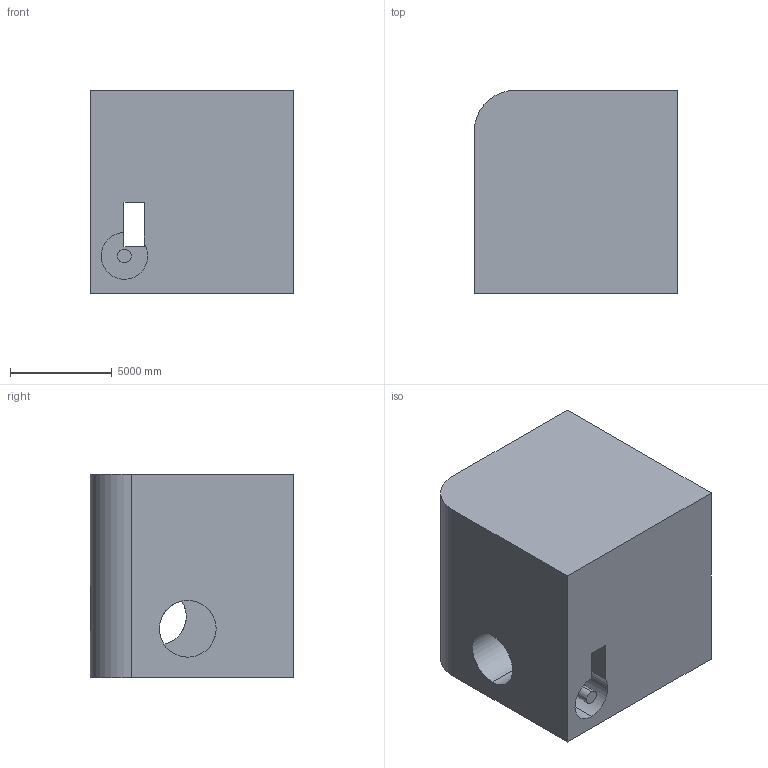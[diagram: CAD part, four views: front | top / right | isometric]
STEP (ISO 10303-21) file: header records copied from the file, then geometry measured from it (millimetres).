
FILE_DESCRIPTION (( 'STEP AP203' ), '1' );
FILE_NAME ('675.STEP', '2022-07-29T12:27:17', ( 'user' ), ( '' ), 'SwSTEP 2.0', 'SolidWorks 2021', '' );
FILE_SCHEMA (( 'CONFIG_CONTROL_DESIGN' ));
Length unit declared in the file: centimetre
Products named in the file (1): 675
Bounding box: 10000 x 10000 x 10000 mm (x, y, z)
Volume: 851206117755.8 mm3; surface area: 760315999.4 mm2
Topology: 1 solids, 1 shells, 32 faces, 99 edges, 66 vertices
Faces by surface type: plane 23, cylinder 9
Entity records: 1202 total; most frequent: CARTESIAN_POINT 198, ORIENTED_EDGE 198, DIRECTION 195, EDGE_CURVE 99, LINE 69, VECTOR 69, VERTEX_POINT 66, AXIS2_PLACEMENT_3D 63
